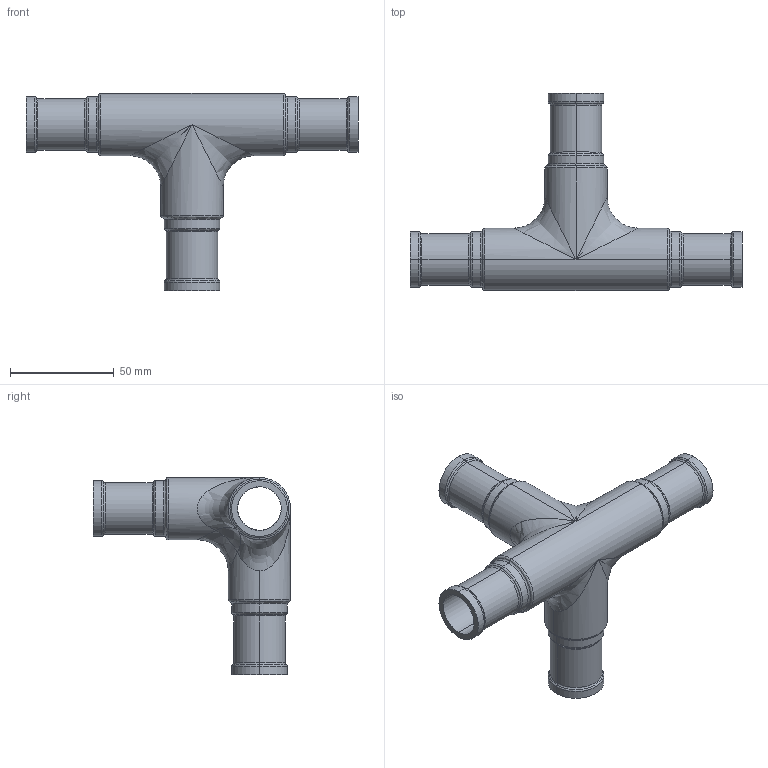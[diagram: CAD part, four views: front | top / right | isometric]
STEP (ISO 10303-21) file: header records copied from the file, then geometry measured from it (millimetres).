
FILE_DESCRIPTION (( 'STEP AP214' ), '1' );
FILE_NAME ('115.301.006.STEP', '2023-06-15T07:42:43', ( '' ), ( '' ), 'SwSTEP 2.0', 'SolidWorks 2021', '' );
FILE_SCHEMA (( 'AUTOMOTIVE_DESIGN' ));
Length unit declared in the file: millimetre
Products named in the file (1): 115.301.006
Bounding box: 160 x 95 x 95 mm (x, y, z)
Volume: 80122.5 mm3; surface area: 45176.1 mm2
Topology: 1 solids, 1 shells, 101 faces, 217 edges, 112 vertices
Faces by surface type: bspline 55, cylinder 40, plane 6
Entity records: 5007 total; most frequent: CARTESIAN_POINT 2996, ORIENTED_EDGE 426, DIRECTION 423, EDGE_CURVE 213, AXIS2_PLACEMENT_3D 188, CIRCLE 141, VERTEX_POINT 112, EDGE_LOOP 105
